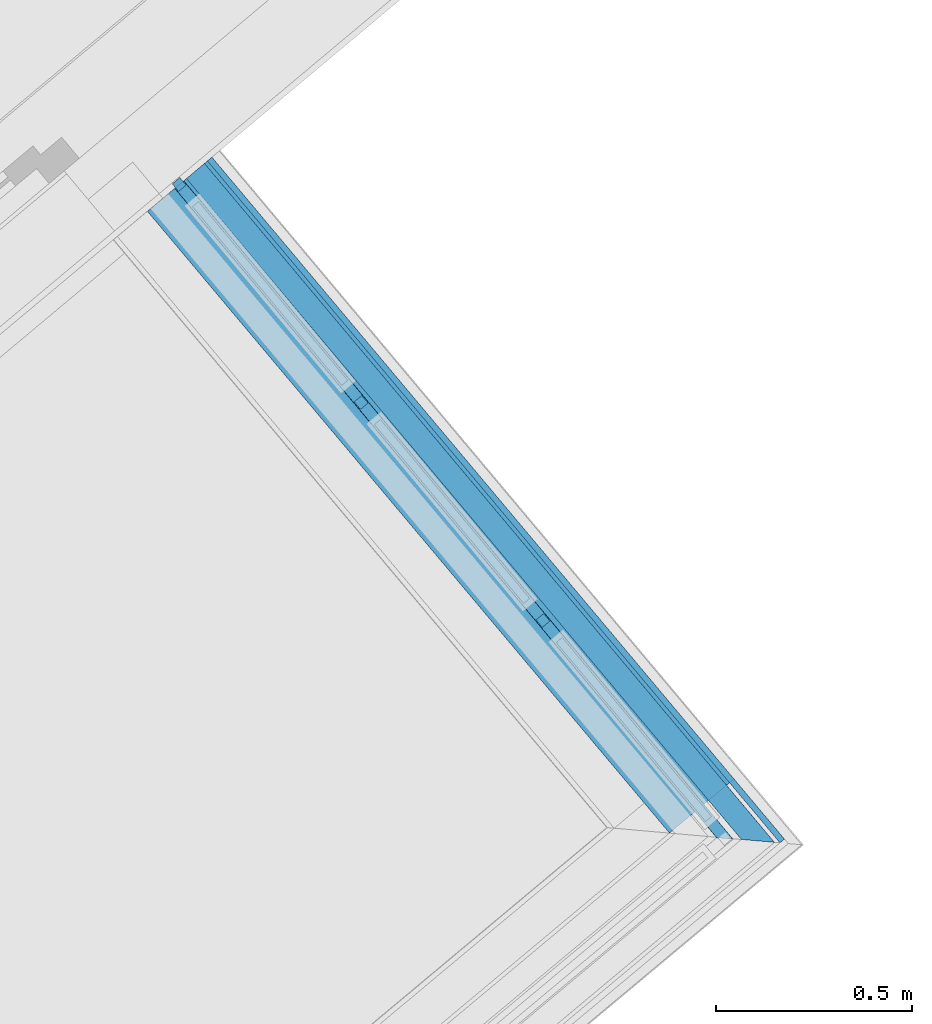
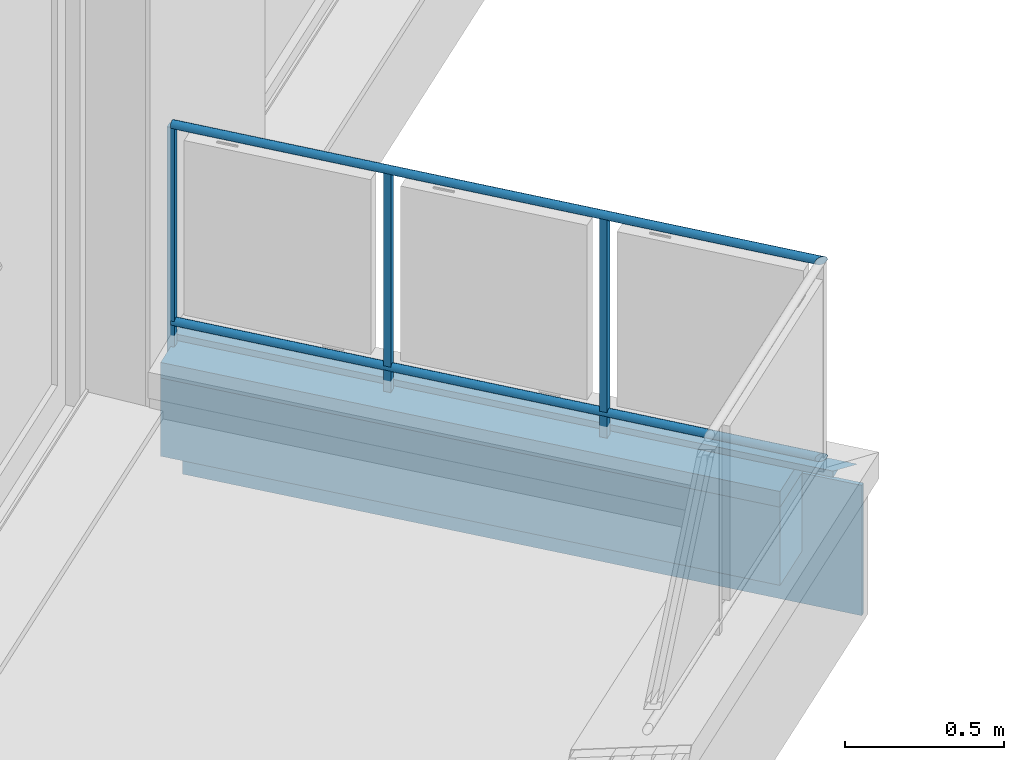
# One storey, part 24 of 53: 9 building element parts, 2 elements without a shape of their own.
"""IFC4 building model written with IfcOpenShell, lengths in metres."""

import ifcopenshell
import ifcopenshell.guid

model = None  # the IFC model being written
_history = None  # IfcOwnerHistory: only IFC2X3 demands one
_inside = {}  # id of a spatial element -> (the spatial element, [elements in it])
_under = {}  # id of a project, library or spatial element -> (it, [spatial elements below it])
_declared = {}  # id of a project -> (the project, [libraries it declares])
_typed = {}  # id of a type object -> (the type object, [elements of that type])
_made_of = {}  # id of a material, layer set ... -> (it, [elements and type objects made of it])


def new_model(schema):
    """Start an empty IFC model of exactly this schema.

    Asked for "IFC4X3", IfcOpenShell would pick the latest addendum, in which some entities
    have other attributes; the version numbers below select the first issue.
    IFC2X3 requires an IfcOwnerHistory on every rooted entity: one is made here for all.
    """
    global model, _history
    if schema == "IFC4X3":
        model = ifcopenshell.file(schema_version=(4, 3, 0, 0))
    else:
        model = ifcopenshell.file(schema=schema)
    _inside.clear()
    _under.clear()
    _declared.clear()
    _typed.clear()
    _made_of.clear()
    _history = None
    if model.schema == "IFC2X3":
        org = make("IfcOrganization", Name="unknown")
        user = make(
            "IfcPersonAndOrganization",
            ThePerson=make("IfcPerson", FamilyName="unknown"),
            TheOrganization=org,
        )
        app = make(
            "IfcApplication",
            ApplicationDeveloper=org,
            Version="unknown",
            ApplicationFullName="unknown",
            ApplicationIdentifier="unknown",
        )
        _history = make(
            "IfcOwnerHistory",
            OwningUser=user,
            OwningApplication=app,
            ChangeAction="ADDED",
            CreationDate=0,
        )
    return model


def make(cls, **values):
    """One entity of the class cls with the attributes given. An attribute that is None is left unset."""
    return model.create_entity(
        cls, **{name: value for name, value in values.items() if value is not None}
    )


def entity(cls, *values):
    """Any entity or typed value of the class cls, its attributes in the order of the schema. None: left unset."""
    e = model.create_entity(cls)
    for i, value in enumerate(values):
        if value is not None:
            e[i] = value
    return e


def rooted(cls, **values):
    """An entity with a GlobalId (a new one), such as an element, a storey or a relation."""
    return make(cls, GlobalId=ifcopenshell.guid.new(), OwnerHistory=_history, **values)


def si_unit(unit_type, name, prefix=None):
    """IfcSIUnit, for example si_unit("LENGTHUNIT", "METRE", prefix="MILLI")."""
    return make("IfcSIUnit", UnitType=unit_type, Prefix=prefix, Name=name)


def converted_unit(unit_type, name, factor, base, dimensions=None, offset=None):
    """IfcConversionBasedUnit, such as the inch: factor (a typed value) times the base unit."""
    return make(
        "IfcConversionBasedUnit"
        if offset is None
        else "IfcConversionBasedUnitWithOffset",
        ConversionOffset=offset,
        Dimensions=None
        if dimensions is None
        else entity("IfcDimensionalExponents", *dimensions),
        UnitType=unit_type,
        Name=name,
        ConversionFactor=make(
            "IfcMeasureWithUnit", ValueComponent=factor, UnitComponent=base
        ),
    )


def derived_unit(unit_type, elements):
    """IfcDerivedUnit: a product of units, each with its exponent."""
    return make(
        "IfcDerivedUnit",
        Elements=[
            make("IfcDerivedUnitElement", Unit=unit, Exponent=power)
            for unit, power in elements
        ],
        UnitType=unit_type,
    )


def assignment(units):
    """IfcUnitAssignment: the units of a project."""
    return None if units is None else make("IfcUnitAssignment", Units=units)


def point(xyz):
    """IfcCartesianPoint."""
    return None if xyz is None else make("IfcCartesianPoint", Coordinates=xyz)


def direction(xyz):
    """IfcDirection."""
    return None if xyz is None else make("IfcDirection", DirectionRatios=xyz)


def frame(location, z_axis=None, x_axis=None):
    """IfcAxis2Placement3D, a coordinate frame: its origin and axes. An axis left out is left unset."""
    return make(
        "IfcAxis2Placement3D",
        Location=point(location),
        Axis=direction(z_axis),
        RefDirection=direction(x_axis),
    )


def origin_with_axes():
    """The frame at (0, 0, 0) with the z axis (0, 0, 1) and the x axis (1, 0, 0) written out."""
    return frame((0.0, 0.0, 0.0), z_axis=(0.0, 0.0, 1.0), x_axis=(1.0, 0.0, 0.0))


def place(relative_to, where):
    """IfcLocalPlacement: puts the frame where relative to a parent placement (None: the world)."""
    return make(
        "IfcLocalPlacement", PlacementRelTo=relative_to, RelativePlacement=where
    )


def context(
    kind, dimensions, precision=None, world=None, true_north=None, identifier=None
):
    """IfcGeometricRepresentationContext, for example the 3D "Model" context."""
    return make(
        "IfcGeometricRepresentationContext",
        ContextIdentifier=identifier,
        ContextType=kind,
        CoordinateSpaceDimension=dimensions,
        Precision=precision,
        WorldCoordinateSystem=world,
        TrueNorth=true_north,
    )


def subcontext(parent, identifier, kind, view, scale=None):
    """IfcGeometricRepresentationSubContext, for example "Body" below "Model"."""
    return make(
        "IfcGeometricRepresentationSubContext",
        ContextIdentifier=identifier,
        ContextType=kind,
        ParentContext=parent,
        TargetScale=scale,
        TargetView=view,
    )


def project(units=None, contexts=None):
    """IfcProject with its units and contexts."""
    return rooted(
        "IfcProject",
        Name="project",
        RepresentationContexts=contexts,
        UnitsInContext=assignment(units),
    )


def spatial(cls, under=None, at=None, **own):
    """A site, building, storey or space (cls), placed at a placement, below another one or the project."""
    s = rooted(cls, ObjectPlacement=at, **own)
    if under is not None:
        _under.setdefault(under.id(), (under, []))[1].append(s)
    return s


def point_list(points):
    """IfcCartesianPointList2D or 3D."""
    cls = (
        "IfcCartesianPointList2D" if len(points[0]) == 2 else "IfcCartesianPointList3D"
    )
    return make(cls, CoordList=points)


def polygons(points, faces, closed=None, point_numbers=None):
    """IfcPolygonalFaceSet: a face is its outer loop, then its inner loops; points numbered from 1."""
    made = []
    for loops in faces:
        if len(loops) == 1:
            made.append(make("IfcIndexedPolygonalFace", CoordIndex=loops[0]))
        else:
            made.append(
                make(
                    "IfcIndexedPolygonalFaceWithVoids",
                    CoordIndex=loops[0],
                    InnerCoordIndices=loops[1:],
                )
            )
    return make(
        "IfcPolygonalFaceSet",
        Coordinates=point_list(points),
        Closed=closed,
        Faces=made,
        PnIndex=point_numbers,
    )


def shape(context_of_items, identifier, shape_type, items):
    """IfcShapeRepresentation: the items that make up one representation, for example the "Body"."""
    return make(
        "IfcShapeRepresentation",
        ContextOfItems=context_of_items,
        RepresentationIdentifier=identifier,
        RepresentationType=shape_type,
        Items=items,
    )


def material(Name=None, Category=None):
    """IfcMaterial."""
    return make("IfcMaterial", Name=Name, Category=Category)


def made_of(thing, what):
    """Note that an element or type object is made of a material, layer set ...; save() writes the relation."""
    if what is not None:
        _made_of.setdefault(what.id(), (what, []))[1].append(thing)
    return thing


def type_object(cls, material=None, **own):
    """A type object (cls), such as IfcWallType, which elements share."""
    return made_of(rooted(cls, **own), material)


def element(
    cls,
    number,
    at=None,
    inside=None,
    cuts=None,
    type_object=None,
    material=None,
    context=None,
    identifier="Body",
    shape_type=None,
    held_by="IfcProductDefinitionShape",
    body=None,
    shapes=None,
    **own,
):
    """One element of the class cls, such as IfcWall. Its Tag is "e" and its number.

    at: its placement. inside: the storey or other place that contains it. cuts: it is an
    opening in that element (IfcRelVoidsElement). A single representation is given by context,
    identifier, shape_type and body (its items); several are given by shapes. held_by: the class
    of the entity that holds the representations. save() writes the other relations.
    """
    e = rooted(cls, Tag="e%d" % number, ObjectPlacement=at, **own)
    if body is not None:
        shapes = [shape(context, identifier, shape_type, body)]
    if shapes is not None:
        e.Representation = make(held_by, Representations=shapes)
    if inside is not None:
        _inside.setdefault(inside.id(), (inside, []))[1].append(e)
    if cuts is not None:
        rooted(
            "IfcRelVoidsElement", RelatingBuildingElement=cuts, RelatedOpeningElement=e
        )
    if type_object is not None:
        _typed.setdefault(type_object.id(), (type_object, []))[1].append(e)
    return made_of(e, material)


def aggregate(whole, parts):
    """IfcRelAggregates: a whole, such as a stair, and the parts it consists of."""
    return rooted("IfcRelAggregates", RelatingObject=whole, RelatedObjects=parts)


def save(model, path):
    """Write the relations noted so far, then the file.

    IfcRelAggregates (storeys below a building ...), IfcRelContainedInSpatialStructure (elements
    in a storey), IfcRelDefinesByType, IfcRelAssociatesMaterial and IfcRelDeclares: one each for
    every whole, place, type object, material and project.
    """
    for whole, parts in _under.values():
        aggregate(whole, parts)
    for where, things in _inside.values():
        rooted(
            "IfcRelContainedInSpatialStructure",
            RelatedElements=things,
            RelatingStructure=where,
        )
    for kind, things in _typed.values():
        rooted("IfcRelDefinesByType", RelatedObjects=things, RelatingType=kind)
    for what, things in _made_of.values():
        rooted("IfcRelAssociatesMaterial", RelatedObjects=things, RelatingMaterial=what)
    for by, libraries in _declared.values():
        rooted("IfcRelDeclares", RelatingContext=by, RelatedDefinitions=libraries)
    model.write(path)


model = new_model("IFC4")

# Units and contexts
model_context = context("Model", 3, precision=1e-05, world=origin_with_axes(), true_north=direction((0.0, 1.0)))
body_context = subcontext(model_context, "Body", "Model", "MODEL_VIEW")
ifc_project = project(units=[si_unit("LENGTHUNIT", "METRE"), si_unit("AREAUNIT", "SQUARE_METRE"), si_unit("VOLUMEUNIT", "CUBIC_METRE"), converted_unit("PLANEANGLEUNIT", "DEGREE", entity("IfcPlaneAngleMeasure", 0.0174532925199), si_unit("PLANEANGLEUNIT", "RADIAN"), dimensions=[0, 0, 0, 0, 0, 0, 0]), converted_unit("TIMEUNIT", "Year", entity("IfcTimeMeasure", 31556926.0), si_unit("TIMEUNIT", "SECOND"), dimensions=[0, 0, 1, 0, 0, 0, 0]), si_unit("MASSUNIT", "GRAM", prefix="KILO"), si_unit("THERMODYNAMICTEMPERATUREUNIT", "DEGREE_CELSIUS"), si_unit("LUMINOUSINTENSITYUNIT", "LUMEN"), si_unit("ENERGYUNIT", "JOULE", prefix="MEGA"), derived_unit("THERMALCONDUCTANCEUNIT", [(si_unit("POWERUNIT", "WATT"), 1), (si_unit("LENGTHUNIT", "METRE"), -1), (si_unit("THERMODYNAMICTEMPERATUREUNIT", "KELVIN"), -1)]), derived_unit("SPECIFICHEATCAPACITYUNIT", [(si_unit("ENERGYUNIT", "JOULE"), 1), (si_unit("MASSUNIT", "GRAM", prefix="KILO"), -1), (si_unit("THERMODYNAMICTEMPERATUREUNIT", "KELVIN"), -1)]), derived_unit("MASSDENSITYUNIT", [(si_unit("MASSUNIT", "GRAM", prefix="KILO"), 1), (si_unit("VOLUMEUNIT", "CUBIC_METRE"), -1)])], contexts=[model_context])

# Site, building, storey
site_placement = place(None, frame((-0.00153261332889, -0.00661245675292, 0.0), z_axis=(0.0, 0.0, 1.0), x_axis=(1.0, 0.0, 0.0)))
site = spatial("IfcSite", under=ifc_project, at=site_placement, Name="Gelände", CompositionType="ELEMENT")
building_placement = place(site_placement, origin_with_axes())
building = spatial("IfcBuilding", under=site, at=building_placement, Name="Gebäude", CompositionType="ELEMENT")
storey_placement = place(building_placement, frame((0.0, 0.0, 2.74), z_axis=(0.0, 0.0, 1.0), x_axis=(1.0, 0.0, 0.0)))
storey = spatial("IfcBuildingStorey", under=building, at=storey_placement, Name="OG1", CompositionType="ELEMENT", Elevation=2.74)

# Wall, building element parts
wall_type = type_object("IfcWallType", Name="Bauteil - Attika Balkon 356 x 610", PredefinedType="NOTDEFINED")
wall_placement = place(storey_placement, frame((7.00366353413, 12.2268681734, -0.2), z_axis=(0.0, 0.0, 1.0), x_axis=(-0.643026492, 0.76584393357, 0.0)))
wall = element("IfcWall", 1, at=wall_placement, inside=storey, type_object=wall_type, Name="Wand-003", PredefinedType="NOTDEFINED")
ifc_material_1 = material(Name="Stahlbeton")
building_element_part_1_placement = place(wall_placement, origin_with_axes())
building_element_part_1 = element("IfcBuildingElementPart", 2, at=building_element_part_1_placement, material=ifc_material_1, Name="Stahlbeton", PredefinedType="NOTDEFINED", context=body_context, shape_type="Tessellation", body=[
    polygons([(-1.05534070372e-09, -1.05297282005e-09, 0.500000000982), (-0.000449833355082, -0.19999996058, 0.500000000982), (2.07193710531, -0.19999996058, 0.500000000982), (2.07193710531, -1.05297104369e-09, 0.500000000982), (-0.000449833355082, -0.19999996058, 0.498915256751), (-1.05534070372e-09, -1.05297282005e-09, 0.498915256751), (-0.000449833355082, -0.19999996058, 0.496604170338), (-0.000449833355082, -0.19999996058, 0.334999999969), (-0.000449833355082, -0.19999996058, 0.2), (2.07193710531, -0.19999996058, 0.2), (2.07193710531, -1.05297104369e-09, 0.335000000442), (2.07193710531, -1.05297104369e-09, 0.2), (-1.05534070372e-09, -1.05297282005e-09, 0.334999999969), (-1.05534070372e-09, -1.05297282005e-09, 0.496604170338), (-1.05534159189e-09, -1.0529745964e-09, 0.2)], [[[1, 2, 3, 4]], [[5, 2, 1, 6]], [[2, 5, 7, 8, 9, 10, 3]], [[11, 4, 3, 10, 12]], [[6, 1, 4, 11, 13, 14]], [[5, 6, 14, 7]], [[7, 14, 13, 8]], [[8, 13, 15, 9]], [[9, 15, 12, 10]], [[15, 13, 11, 12]]], closed=True),
])
ifc_material_2 = material(Name="Brettschichtholz")
building_element_part_2_placement = place(wall_placement, origin_with_axes())
building_element_part_2 = element("IfcBuildingElementPart", 3, at=building_element_part_2_placement, material=ifc_material_2, Name="Brettschichtholz", PredefinedType="NOTDEFINED", context=body_context, shape_type="Tessellation", body=[
    polygons([(-0.00042762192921, -0.190124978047, 0.560000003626), (-0.000483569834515, -0.214999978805, 0.560000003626), (2.07193710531, -0.214999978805, 0.560000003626), (2.07193710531, -0.190124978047, 0.559999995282), (-0.000483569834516, -0.214999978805, 0.519273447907), (-0.000292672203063, -0.130124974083, 0.560000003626), (-0.000157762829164, -0.0701429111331, 0.560000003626), (-2.28131217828e-05, -0.010142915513, 0.560000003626), (0.0, 0.0, 0.560000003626), (0.0, 0.0, 0.519273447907), (-0.000483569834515, -0.214999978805, 0.511410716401), (-0.000483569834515, -0.214999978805, 0.509099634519), (-0.000483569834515, -0.214999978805, 0.506731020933), (-0.000483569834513, -0.214999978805, 0.499999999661), (2.07193710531, -0.214999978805, 0.499999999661), (2.07193710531, -0.0701429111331, 0.559999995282), (2.07193710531, -0.130124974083, 0.559999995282), (2.07193710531, 0.0, 0.499999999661), (2.07193710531, 0.0, 0.560000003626), (2.07193710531, -0.010142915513, 0.559999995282), (0.0, 0.0, 0.499999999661), (0.0, 0.0, 0.506731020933), (0.0, 0.0, 0.509099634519), (0.0, 0.0, 0.511410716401)], [[[1, 2, 3, 4]], [[5, 2, 1, 6, 7, 8, 9, 10]], [[2, 5, 11, 12, 13, 14, 15, 3]], [[16, 17, 4, 3, 15, 18, 19, 20]], [[6, 1, 4, 17]], [[7, 6, 17, 16]], [[8, 7, 16, 20]], [[9, 8, 20, 19]], [[10, 9, 19, 18, 21, 22, 23, 24]], [[5, 10, 24, 11]], [[11, 24, 23, 12]], [[12, 23, 22, 13]], [[13, 22, 21, 14]], [[14, 21, 18, 15]]], closed=True),
])
ifc_material_3 = material(Name="Vollholz")
building_element_part_3_placement = place(wall_placement, origin_with_axes())
building_element_part_3 = element("IfcBuildingElementPart", 4, at=building_element_part_3_placement, material=ifc_material_3, Name="Vollholz", PredefinedType="NOTDEFINED", context=body_context, shape_type="Tessellation", body=[
    polygons([(2.07193710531, -0.130124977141, 0.560000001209), (-0.130417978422, -0.130124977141, 0.560000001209), (-0.130417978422, -0.130124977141, 0.575576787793), (-0.130417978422, -0.130124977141, 0.57982217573), (-0.130417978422, -0.130124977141, 0.581921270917), (-0.130417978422, -0.130124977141, 0.584015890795), (2.07193710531, -0.130124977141, 0.584015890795), (2.07193710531, -0.190124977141, 0.560000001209), (-0.130552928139, -0.190124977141, 0.560000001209), (-0.130552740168, -0.190041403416, 0.575576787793), (-0.130552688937, -0.190018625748, 0.57982217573), (-0.130552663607, -0.190007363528, 0.581921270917), (-0.13055263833, -0.189996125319, 0.584015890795), (-0.190412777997, -0.189984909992, 0.586106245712), (2.07193710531, -0.189984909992, 0.586106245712)], [[[1, 2, 3, 4, 5, 6, 7]], [[2, 1, 8, 9]], [[3, 2, 9, 10]], [[4, 3, 10, 11]], [[5, 4, 11, 12]], [[6, 5, 12, 13]], [[7, 6, 14, 15]], [[1, 7, 15, 8]], [[8, 15, 14, 13, 12, 11, 10, 9]], [[6, 13, 14]]], closed=True),
])
ifc_material_4 = material(Name="Zementputz")
building_element_part_4_placement = place(wall_placement, origin_with_axes())
building_element_part_4 = element("IfcBuildingElementPart", 5, at=building_element_part_4_placement, material=ifc_material_4, Name="Zementputz", PredefinedType="NOTDEFINED", context=body_context, shape_type="Tessellation", body=[
    polygons([(-0.200450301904, -0.199999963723, 0.500000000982), (-0.200484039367, -0.214999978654, 0.500000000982), (2.07193710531, -0.214999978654, 0.500000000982), (2.07193710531, -0.199999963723, 0.500000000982), (-0.200484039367, -0.214999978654, 0.498915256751), (-0.200450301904, -0.199999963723, 0.498915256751), (-0.200484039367, -0.214999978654, 0.496604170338), (-0.200484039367, -0.214999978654, 0.334999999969), (-0.200484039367, -0.214999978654, 0.2), (-0.200484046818, -0.214999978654, 0.0), (2.07193710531, -0.214999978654, 0.0), (2.07193710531, -0.199999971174, 0.0), (2.07193710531, -0.199999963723, 0.200000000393), (-0.200450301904, -0.199999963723, 0.2), (-0.200450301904, -0.199999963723, 0.334999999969), (-0.200450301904, -0.199999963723, 0.496604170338), (-0.200450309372, -0.199999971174, 0.0)], [[[1, 2, 3, 4]], [[5, 2, 1, 6]], [[2, 5, 7, 8, 9, 10, 11, 3]], [[12, 13, 4, 3, 11]], [[6, 1, 4, 13, 14, 15, 16]], [[5, 6, 16, 7]], [[7, 16, 15, 8]], [[8, 15, 14, 9]], [[9, 14, 17, 10]], [[10, 17, 12, 11]], [[17, 14, 13, 12]]], closed=True),
])
aggregate(wall, [building_element_part_1, building_element_part_2, building_element_part_3, building_element_part_4])

# Space
space_placement = place(storey_placement, frame((5.82112883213, 13.939405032, 0.22), z_axis=(0.0, 0.0, 1.0), x_axis=(-0.766948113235, -0.641709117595, 0.0)))
space = spatial("IfcSpace", under=storey, at=space_placement, CompositionType="ELEMENT", PredefinedType="NOTDEFINED")

# Railing, building element parts
railing_type = type_object("IfcRailingType", Name="Geländerart", PredefinedType="NOTDEFINED")
railing_placement = place(space_placement, frame((8.7233739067, 0.0, 0.16), z_axis=(0.0, 0.0, 1.0), x_axis=(-0.766948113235, 0.641709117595, 0.0)))
railing = element("IfcRailing", 6, at=railing_placement, inside=space, type_object=railing_type, Name="Geländer - 001", PredefinedType="NOTDEFINED")
ifc_material_5 = material(Name="Aluminium")
building_element_part_5_placement = place(railing_placement, origin_with_axes())
building_element_part_5 = element("IfcBuildingElementPart", 7, at=building_element_part_5_placement, material=ifc_material_5, Name="Aluminium", PredefinedType="NOTDEFINED", context=body_context, shape_type="Tessellation", body=[
    polygons([(6.62329895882, 5.55815989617, -0.3), (6.6041029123, 5.54214391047, -0.3), (6.6041029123, 5.54214391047, 0.82), (6.62329895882, 5.55815989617, 0.82), (6.63931494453, 5.53896384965, -0.3), (6.620118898, 5.52294786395, -0.3), (6.620118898, 5.52294786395, 0.82), (6.63931494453, 5.53896384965, 0.82)], [[[1, 2, 3, 4]], [[1, 5, 6, 2]], [[2, 6, 7, 3]], [[4, 3, 7, 8]], [[5, 1, 4, 8]], [[6, 5, 8, 7]]], closed=True),
])
building_element_part_6_placement = place(railing_placement, origin_with_axes())
building_element_part_6 = element("IfcBuildingElementPart", 8, at=building_element_part_6_placement, material=ifc_material_5, Name="Aluminium", PredefinedType="NOTDEFINED", context=body_context, shape_type="Tessellation", body=[
    polygons([(7.99310948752, 3.8734401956, 0.825), (7.99343033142, 3.8734113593, 0.827604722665), (6.61036627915, 5.53109027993, 0.827604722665), (6.6101913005, 5.53094428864, 0.825), (7.99343033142, 3.8734113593, 0.822395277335), (7.99438311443, 3.87332572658, 0.81986969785), (7.99593888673, 3.87318589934, 0.8175), (7.99805037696, 3.87299612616, 0.815358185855), (8.00065342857, 3.87276217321, 0.813509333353), (8.00366894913, 3.87249114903, 0.812009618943), (8.0070053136, 3.87219128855, 0.810904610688), (8.01056114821, 3.87187170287, 0.810227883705), (8.01422841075, 3.87154210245, 0.81), (8.01789567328, 3.87121250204, 0.810227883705), (8.02145150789, 3.87089291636, 0.810904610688), (8.02478787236, 3.87059305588, 0.812009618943), (8.02780339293, 3.8703220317, 0.813509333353), (8.03040644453, 3.87008807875, 0.815358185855), (8.03251793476, 3.86989830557, 0.8175), (8.03407370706, 3.86975847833, 0.81986969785), (8.03502649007, 3.86967284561, 0.822395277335), (8.03534733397, 3.86964400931, 0.825), (8.03502649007, 3.86967284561, 0.827604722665), (8.03407370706, 3.86975847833, 0.83013030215), (8.03251793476, 3.86989830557, 0.8325), (8.03040644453, 3.87008807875, 0.834641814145), (8.02780339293, 3.8703220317, 0.836490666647), (8.02478787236, 3.87059305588, 0.837990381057), (8.02145150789, 3.87089291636, 0.839095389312), (8.01789567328, 3.87121250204, 0.839772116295), (8.01422841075, 3.87154210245, 0.84), (8.01056114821, 3.87187170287, 0.839772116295), (8.0070053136, 3.87219128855, 0.839095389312), (8.00366894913, 3.87249114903, 0.837990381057), (8.00065342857, 3.87276217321, 0.836490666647), (7.99805037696, 3.87299612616, 0.834641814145), (7.99593888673, 3.87318589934, 0.8325), (7.99438311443, 3.87332572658, 0.83013030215), (6.61088589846, 5.53152381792, 0.83013030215), (6.61173437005, 5.53223172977, 0.8325), (6.61288591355, 5.53319250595, 0.834641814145), (6.6143055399, 5.53437695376, 0.836490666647), (6.61595011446, 5.53574908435, 0.837990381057), (6.61776966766, 5.53726720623, 0.839095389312), (6.61970891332, 5.53888519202, 0.839772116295), (6.62170892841, 5.54055388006, 0.84), (6.62370894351, 5.5422225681, 0.839772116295), (6.62564818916, 5.5438405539, 0.839095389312), (6.62746774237, 5.54535867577, 0.837990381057), (6.62911231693, 5.54673080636, 0.836490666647), (6.63053194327, 5.54791525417, 0.834641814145), (6.63168348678, 5.54887603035, 0.8325), (6.63253195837, 5.54958394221, 0.83013030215), (6.63305157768, 5.5500174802, 0.827604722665), (6.63322655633, 5.55016347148, 0.825), (6.63305157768, 5.5500174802, 0.822395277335), (6.63253195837, 5.54958394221, 0.81986969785), (6.63168348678, 5.54887603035, 0.8175), (6.63053194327, 5.54791525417, 0.815358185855), (6.62911231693, 5.54673080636, 0.813509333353), (6.62746774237, 5.54535867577, 0.812009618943), (6.62564818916, 5.5438405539, 0.810904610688), (6.62370894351, 5.5422225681, 0.810227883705), (6.62170892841, 5.54055388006, 0.81), (6.61970891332, 5.53888519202, 0.810227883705), (6.61776966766, 5.53726720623, 0.810904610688), (6.61595011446, 5.53574908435, 0.812009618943), (6.6143055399, 5.53437695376, 0.813509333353), (6.61288591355, 5.53319250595, 0.815358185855), (6.61173437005, 5.53223172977, 0.8175), (6.61088589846, 5.53152381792, 0.81986969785), (6.61036627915, 5.53109027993, 0.822395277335)], [[[1, 2, 3, 4]], [[1, 5, 6, 7, 8, 9, 10, 11, 12, 13, 14, 15, 16, 17, 18, 19, 20, 21, 22, 23, 24, 25, 26, 27, 28, 29, 30, 31, 32, 33, 34, 35, 36, 37, 38, 2]], [[2, 38, 39, 3]], [[4, 3, 39, 40, 41, 42, 43, 44, 45, 46, 47, 48, 49, 50, 51, 52, 53, 54, 55, 56, 57, 58, 59, 60, 61, 62, 63, 64, 65, 66, 67, 68, 69, 70, 71, 72]], [[5, 1, 4, 72]], [[6, 5, 72, 71]], [[7, 6, 71, 70]], [[8, 7, 70, 69]], [[9, 8, 69, 68]], [[10, 9, 68, 67]], [[11, 10, 67, 66]], [[12, 11, 66, 65]], [[13, 12, 65, 64]], [[14, 13, 64, 63]], [[15, 14, 63, 62]], [[16, 15, 62, 61]], [[17, 16, 61, 60]], [[18, 17, 60, 59]], [[19, 18, 59, 58]], [[20, 19, 58, 57]], [[21, 20, 57, 56]], [[22, 21, 56, 55]], [[23, 22, 55, 54]], [[24, 23, 54, 53]], [[25, 24, 53, 52]], [[26, 25, 52, 51]], [[27, 26, 51, 50]], [[28, 27, 50, 49]], [[29, 28, 49, 48]], [[30, 29, 48, 47]], [[31, 30, 47, 46]], [[32, 31, 46, 45]], [[33, 32, 45, 44]], [[34, 33, 44, 43]], [[35, 34, 43, 42]], [[36, 35, 42, 41]], [[37, 36, 41, 40]], [[38, 37, 40, 39]]], closed=True),
])
building_element_part_7_placement = place(railing_placement, origin_with_axes())
building_element_part_7 = element("IfcBuildingElementPart", 9, at=building_element_part_7_placement, material=ifc_material_5, Name="Aluminium", PredefinedType="NOTDEFINED", context=body_context, shape_type="Tessellation", body=[
    polygons([(7.99310948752, 3.8734401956, 0.07), (7.99343033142, 3.8734113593, 0.072604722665), (6.61036627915, 5.53109027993, 0.072604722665), (6.6101913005, 5.53094428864, 0.07), (7.99343033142, 3.8734113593, 0.067395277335), (7.99438311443, 3.87332572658, 0.0648696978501), (7.99593888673, 3.87318589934, 0.0625), (7.99805037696, 3.87299612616, 0.0603581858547), (8.00065342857, 3.87276217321, 0.0585093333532), (8.00366894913, 3.87249114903, 0.0570096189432), (8.0070053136, 3.87219128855, 0.0559046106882), (8.01056114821, 3.87187170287, 0.0552278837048), (8.01422841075, 3.87154210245, 0.055), (8.01789567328, 3.87121250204, 0.0552278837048), (8.02145150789, 3.87089291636, 0.0559046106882), (8.02478787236, 3.87059305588, 0.0570096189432), (8.02780339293, 3.8703220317, 0.0585093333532), (8.03040644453, 3.87008807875, 0.0603581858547), (8.03251793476, 3.86989830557, 0.0625), (8.03407370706, 3.86975847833, 0.0648696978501), (8.03502649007, 3.86967284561, 0.067395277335), (8.03534733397, 3.86964400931, 0.07), (8.03502649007, 3.86967284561, 0.072604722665), (8.03407370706, 3.86975847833, 0.0751303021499), (8.03251793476, 3.86989830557, 0.0775), (8.03040644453, 3.87008807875, 0.0796418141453), (8.02780339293, 3.8703220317, 0.0814906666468), (8.02478787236, 3.87059305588, 0.0829903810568), (8.02145150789, 3.87089291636, 0.0840953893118), (8.01789567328, 3.87121250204, 0.0847721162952), (8.01422841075, 3.87154210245, 0.085), (8.01056114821, 3.87187170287, 0.0847721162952), (8.0070053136, 3.87219128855, 0.0840953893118), (8.00366894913, 3.87249114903, 0.0829903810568), (8.00065342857, 3.87276217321, 0.0814906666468), (7.99805037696, 3.87299612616, 0.0796418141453), (7.99593888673, 3.87318589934, 0.0775), (7.99438311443, 3.87332572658, 0.0751303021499), (6.61088589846, 5.53152381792, 0.0751303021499), (6.61173437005, 5.53223172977, 0.0775), (6.61288591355, 5.53319250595, 0.0796418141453), (6.6143055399, 5.53437695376, 0.0814906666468), (6.61595011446, 5.53574908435, 0.0829903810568), (6.61776966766, 5.53726720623, 0.0840953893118), (6.61970891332, 5.53888519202, 0.0847721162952), (6.62170892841, 5.54055388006, 0.085), (6.62370894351, 5.5422225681, 0.0847721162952), (6.62564818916, 5.5438405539, 0.0840953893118), (6.62746774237, 5.54535867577, 0.0829903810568), (6.62911231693, 5.54673080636, 0.0814906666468), (6.63053194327, 5.54791525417, 0.0796418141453), (6.63168348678, 5.54887603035, 0.0775), (6.63253195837, 5.54958394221, 0.0751303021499), (6.63305157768, 5.5500174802, 0.072604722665), (6.63322655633, 5.55016347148, 0.07), (6.63305157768, 5.5500174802, 0.067395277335), (6.63253195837, 5.54958394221, 0.0648696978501), (6.63168348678, 5.54887603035, 0.0625), (6.63053194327, 5.54791525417, 0.0603581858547), (6.62911231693, 5.54673080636, 0.0585093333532), (6.62746774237, 5.54535867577, 0.0570096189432), (6.62564818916, 5.5438405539, 0.0559046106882), (6.62370894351, 5.5422225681, 0.0552278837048), (6.62170892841, 5.54055388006, 0.055), (6.61970891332, 5.53888519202, 0.0552278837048), (6.61776966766, 5.53726720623, 0.0559046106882), (6.61595011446, 5.53574908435, 0.0570096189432), (6.6143055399, 5.53437695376, 0.0585093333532), (6.61288591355, 5.53319250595, 0.0603581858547), (6.61173437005, 5.53223172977, 0.0625), (6.61088589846, 5.53152381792, 0.0648696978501), (6.61036627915, 5.53109027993, 0.067395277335)], [[[1, 2, 3, 4]], [[1, 5, 6, 7, 8, 9, 10, 11, 12, 13, 14, 15, 16, 17, 18, 19, 20, 21, 22, 23, 24, 25, 26, 27, 28, 29, 30, 31, 32, 33, 34, 35, 36, 37, 38, 2]], [[2, 38, 39, 3]], [[4, 3, 39, 40, 41, 42, 43, 44, 45, 46, 47, 48, 49, 50, 51, 52, 53, 54, 55, 56, 57, 58, 59, 60, 61, 62, 63, 64, 65, 66, 67, 68, 69, 70, 71, 72]], [[5, 1, 4, 72]], [[6, 5, 72, 71]], [[7, 6, 71, 70]], [[8, 7, 70, 69]], [[9, 8, 69, 68]], [[10, 9, 68, 67]], [[11, 10, 67, 66]], [[12, 11, 66, 65]], [[13, 12, 65, 64]], [[14, 13, 64, 63]], [[15, 14, 63, 62]], [[16, 15, 62, 61]], [[17, 16, 61, 60]], [[18, 17, 60, 59]], [[19, 18, 59, 58]], [[20, 19, 58, 57]], [[21, 20, 57, 56]], [[22, 21, 56, 55]], [[23, 22, 55, 54]], [[24, 23, 54, 53]], [[25, 24, 53, 52]], [[26, 25, 52, 51]], [[27, 26, 51, 50]], [[28, 27, 50, 49]], [[29, 28, 49, 48]], [[30, 29, 48, 47]], [[31, 30, 47, 46]], [[32, 31, 46, 45]], [[33, 32, 45, 44]], [[34, 33, 44, 43]], [[35, 34, 43, 42]], [[36, 35, 42, 41]], [[37, 36, 41, 40]], [[38, 37, 40, 39]]], closed=True),
])
building_element_part_8_placement = place(railing_placement, origin_with_axes())
building_element_part_8 = element("IfcBuildingElementPart", 10, at=building_element_part_8_placement, material=ifc_material_5, Name="Aluminium", PredefinedType="NOTDEFINED", context=body_context, shape_type="Tessellation", body=[
    polygons([(7.55164528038, 4.44548537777, -0.3), (7.53244923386, 4.42946939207, -0.3), (7.53244923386, 4.42946939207, 0.82), (7.55164528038, 4.44548537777, 0.82), (7.56766126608, 4.42628933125, -0.3), (7.54846521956, 4.41027334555, -0.3), (7.54846521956, 4.41027334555, 0.82), (7.56766126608, 4.42628933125, 0.82)], [[[1, 2, 3, 4]], [[1, 5, 6, 2]], [[2, 6, 7, 3]], [[4, 3, 7, 8]], [[5, 1, 4, 8]], [[6, 5, 8, 7]]], closed=True),
])
building_element_part_9_placement = place(railing_placement, origin_with_axes())
building_element_part_9 = element("IfcBuildingElementPart", 11, at=building_element_part_9_placement, material=ifc_material_5, Name="Aluminium", PredefinedType="NOTDEFINED", context=body_context, shape_type="Tessellation", body=[
    polygons([(7.0874721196, 5.00182263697, -0.3), (7.06827607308, 4.98580665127, -0.3), (7.06827607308, 4.98580665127, 0.82), (7.0874721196, 5.00182263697, 0.82), (7.1034881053, 4.98262659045, -0.3), (7.08429205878, 4.96661060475, -0.3), (7.08429205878, 4.96661060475, 0.82), (7.1034881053, 4.98262659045, 0.82)], [[[1, 2, 3, 4]], [[1, 5, 6, 2]], [[2, 6, 7, 3]], [[4, 3, 7, 8]], [[5, 1, 4, 8]], [[6, 5, 8, 7]]], closed=True),
])
aggregate(railing, [building_element_part_5, building_element_part_6, building_element_part_7, building_element_part_8, building_element_part_9])

save(model, "model.ifc")
